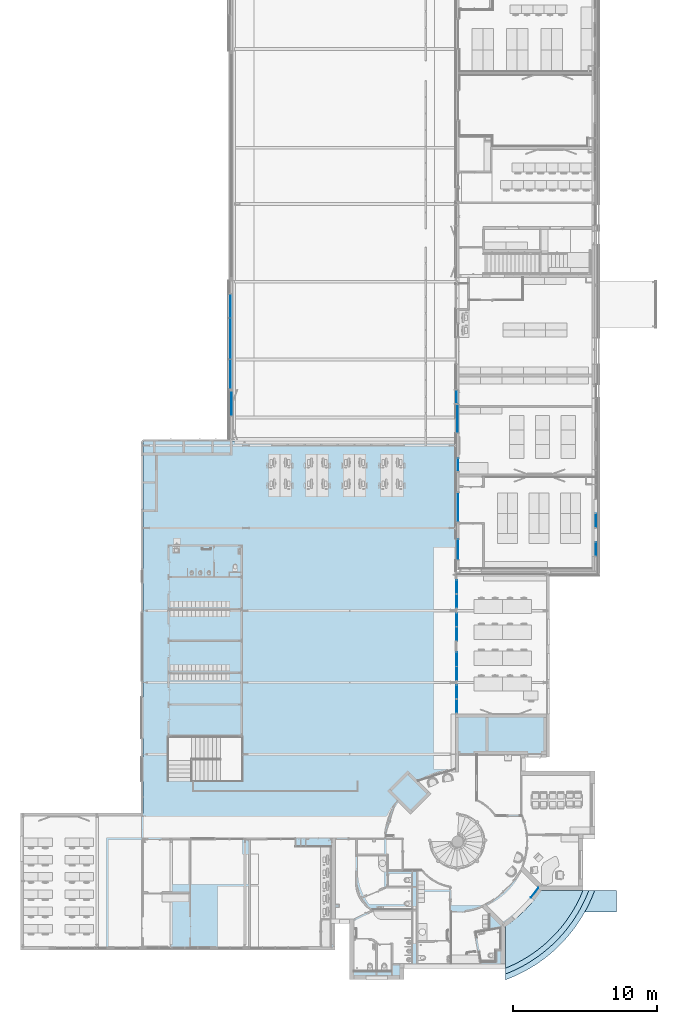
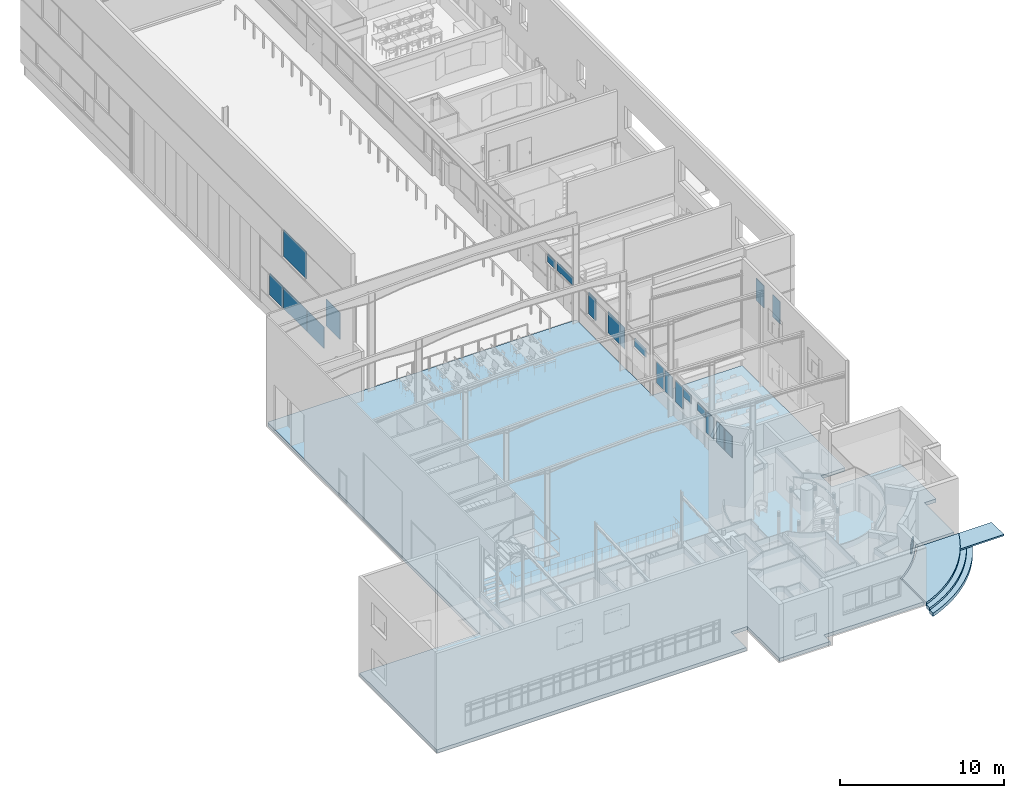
# One storey, part 28 of 137: 21 plates, 5 slabs, 16 elements without a shape of their own.
"""IFC2X3 building model written with IfcOpenShell, lengths in centimetres."""

from ifc_helpers import new_model, entity, si_unit, converted_unit, derived_unit, direction, frame, frame_2d, origin, origin_2d_with_axis, place, context, subcontext, project, spatial, polyline, circle_curve, parameter, trimmed, segment, composite_curve, rectangle, outline, extrude, source, transform, mapped, material, layer, layer_set, layer_usage, type_object, type_shapes, element, aggregate, save


model = new_model("IFC2X3")

# Units and contexts
model_context = context("Model", 3, precision=0.001, world=origin(), true_north=direction((6.12303176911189e-17, 1.0)))
body_context = subcontext(model_context, "Body", "Model", "MODEL_VIEW")
ifc_project = project(units=[si_unit("LENGTHUNIT", "METRE", prefix="CENTI"), si_unit("AREAUNIT", "SQUARE_METRE"), si_unit("VOLUMEUNIT", "CUBIC_METRE"), converted_unit("PLANEANGLEUNIT", "DEGREE", entity("IfcRatioMeasure", 0.0174532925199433), si_unit("PLANEANGLEUNIT", "RADIAN"), dimensions=[0, 0, 0, 0, 0, 0, 0]), si_unit("MASSUNIT", "GRAM", prefix="KILO"), si_unit("TIMEUNIT", "SECOND"), si_unit("FREQUENCYUNIT", "HERTZ"), si_unit("THERMODYNAMICTEMPERATUREUNIT", "DEGREE_CELSIUS"), derived_unit("THERMALTRANSMITTANCEUNIT", [(si_unit("MASSUNIT", "GRAM", prefix="KILO"), 1), (si_unit("THERMODYNAMICTEMPERATUREUNIT", "KELVIN"), -1), (si_unit("TIMEUNIT", "SECOND"), -3)]), derived_unit("VOLUMETRICFLOWRATEUNIT", [(si_unit("LENGTHUNIT", "METRE"), 3), (si_unit("TIMEUNIT", "SECOND"), -1)]), si_unit("ELECTRICCURRENTUNIT", "AMPERE"), si_unit("ELECTRICVOLTAGEUNIT", "VOLT"), si_unit("POWERUNIT", "WATT"), si_unit("FORCEUNIT", "NEWTON", prefix="KILO"), si_unit("ILLUMINANCEUNIT", "LUX"), si_unit("LUMINOUSFLUXUNIT", "LUMEN"), si_unit("LUMINOUSINTENSITYUNIT", "CANDELA"), derived_unit("USERDEFINED", [(si_unit("MASSUNIT", "GRAM", prefix="KILO"), -1), (si_unit("LENGTHUNIT", "METRE"), -2), (si_unit("TIMEUNIT", "SECOND"), 3), (si_unit("LUMINOUSFLUXUNIT", "LUMEN"), 1)]), derived_unit("LINEARVELOCITYUNIT", [(si_unit("LENGTHUNIT", "METRE"), 1), (si_unit("TIMEUNIT", "SECOND"), -1)]), si_unit("PRESSUREUNIT", "PASCAL"), derived_unit("USERDEFINED", [(si_unit("LENGTHUNIT", "METRE"), -2), (si_unit("MASSUNIT", "GRAM", prefix="KILO"), 1), (si_unit("TIMEUNIT", "SECOND"), -2)])], contexts=[model_context])

# Site, building, storey
site_placement = place(None, frame((8.62739174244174, -249.285249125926, 0.0)))
site = spatial("IfcSite", under=ifc_project, at=site_placement, Name="Default", CompositionType="ELEMENT")
building_placement = place(site_placement, origin())
building = spatial("IfcBuilding", under=site, at=building_placement, CompositionType="ELEMENT")
storey_placement = place(building_placement, origin())
storey = spatial("IfcBuildingStorey", under=building, at=storey_placement, Name="RDC", CompositionType="ELEMENT", Elevation=-8.82465566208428e-11)

# Curtain wall, plate
curtain_wall_type = type_object("IfcCurtainWallType", Name="Mur-rideau:Simple panneau", PredefinedType="NOTDEFINED")
curtain_wall_1_placement = place(storey_placement, origin())
curtain_wall_1 = element("IfcCurtainWall", 1, at=curtain_wall_1_placement, inside=storey, type_object=curtain_wall_type, Name="Mur-rideau:Simple panneau", ObjectType="Mur-rideau:Simple panneau")
ifc_material_1 = material(Name="Verre")
plate_type_1 = type_object("IfcPlateType", Name="Vitré", PredefinedType="CURTAIN_PANEL", material=ifc_material_1)
shared_shape_1 = source(origin(), body_context, "Body", "SweptSolid", [
    extrude(rectangle(XDim=4.0, YDim=280.0, at=frame_2d((4.44089209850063e-16, 0.0), x_axis=(1.0, 0.0))), frame((0.0, 2.49999999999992, 0.0), z_axis=(0.0, 0.0, 1.0), x_axis=(0.0, 1.0, 0.0)), (0.0, 0.0, 1.0), 200.0),
])
type_shapes(plate_type_1, [shared_shape_1])
plate_1_placement = place(curtain_wall_1_placement, frame((1458.9048277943, 4257.4802080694, 505.0), z_axis=(0.0, 0.0, 1.0), x_axis=(0.0, -1.0, 0.0)))
plate_1 = element("IfcPlate", 2, at=plate_1_placement, type_object=plate_type_1, material=ifc_material_1, Name="Panneau système:Vitré", ObjectType="Vitré", context=body_context, shape_type="MappedRepresentation", body=[
    mapped(shared_shape_1, transform((0.0, 0.0, 0.0), scale=1.0)),
])
aggregate(curtain_wall_1, [plate_1])

# Curtain wall, plates
curtain_wall_2_placement = place(storey_placement, origin())
curtain_wall_2 = element("IfcCurtainWall", 3, at=curtain_wall_2_placement, inside=storey, type_object=curtain_wall_type, Name="Mur-rideau:Simple panneau", ObjectType="Mur-rideau:Simple panneau")
plate_type_2 = type_object("IfcPlateType", Name="Vitré", PredefinedType="CURTAIN_PANEL", material=ifc_material_1)
shared_shape_2 = source(origin(), body_context, "Body", "SweptSolid", [
    extrude(rectangle(XDim=4.0, YDim=162.500029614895, at=origin_2d_with_axis()), frame((0.0, 2.49999999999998, 0.0), z_axis=(0.0, 0.0, 1.0), x_axis=(0.0, 1.0, 0.0)), (0.0, 0.0, 1.0), 159.999999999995),
])
type_shapes(plate_type_2, [shared_shape_2])
plate_2_placement = place(curtain_wall_2_placement, frame((1458.90482779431, 4484.73022287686, 115.0), z_axis=(0.0, 0.0, 1.0), x_axis=(0.0, -1.0, 0.0)))
plate_2 = element("IfcPlate", 4, at=plate_2_placement, type_object=plate_type_2, material=ifc_material_1, Name="Panneau système:Vitré", ObjectType="Vitré", context=body_context, shape_type="MappedRepresentation", body=[
    mapped(shared_shape_2, transform((0.0, 0.0, 0.0), scale=1.0)),
])
plate_type_3 = type_object("IfcPlateType", Name="Vitré", PredefinedType="CURTAIN_PANEL", material=ifc_material_1)
shared_shape_3 = source(origin(), body_context, "Body", "SweptSolid", [
    extrude(rectangle(XDim=4.0, YDim=284.999999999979, at=origin_2d_with_axis()), frame((0.0, 2.49999999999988, 0.0), z_axis=(0.0, 0.0, 1.0), x_axis=(0.0, 1.0, 0.0)), (0.0, 0.0, 1.0), 159.999999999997),
])
type_shapes(plate_type_3, [shared_shape_3])
plate_3_placement = place(curtain_wall_2_placement, frame((1458.90482779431, 4255.98020806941, 115.0), z_axis=(0.0, 0.0, 1.0), x_axis=(0.0, -1.0, 0.0)))
plate_3 = element("IfcPlate", 5, at=plate_3_placement, type_object=plate_type_3, material=ifc_material_1, Name="Panneau système:Vitré", ObjectType="Vitré", context=body_context, shape_type="MappedRepresentation", body=[
    mapped(shared_shape_3, transform((0.0, 0.0, 0.0), scale=1.0)),
])
plate_type_4 = type_object("IfcPlateType", Name="Vitré", PredefinedType="CURTAIN_PANEL", material=ifc_material_1)
shared_shape_4 = source(origin(), body_context, "Body", "SweptSolid", [
    extrude(rectangle(XDim=4.0, YDim=202.500000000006, at=frame_2d((4.44089209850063e-16, 0.0), x_axis=(1.0, 0.0))), frame((0.0, 2.49999999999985, 0.0), z_axis=(0.0, 0.0, 1.0), x_axis=(0.0, 1.0, 0.0)), (0.0, 0.0, 1.0), 159.999999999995),
])
type_shapes(plate_type_4, [shared_shape_4])
plate_4_placement = place(curtain_wall_2_placement, frame((1458.90482779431, 4007.23020806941, 115.0), z_axis=(0.0, 0.0, 1.0), x_axis=(0.0, -1.0, 0.0)))
plate_4 = element("IfcPlate", 6, at=plate_4_placement, type_object=plate_type_4, material=ifc_material_1, Name="Panneau système:Vitré", ObjectType="Vitré", context=body_context, shape_type="MappedRepresentation", body=[
    mapped(shared_shape_4, transform((0.0, 0.0, 0.0), scale=1.0)),
])
aggregate(curtain_wall_2, [plate_2, plate_3, plate_4])

curtain_wall_3_placement = place(storey_placement, origin())
curtain_wall_3 = element("IfcCurtainWall", 7, at=curtain_wall_3_placement, inside=storey, type_object=curtain_wall_type, Name="Mur-rideau:Simple panneau", ObjectType="Mur-rideau:Simple panneau")
plate_type_5 = type_object("IfcPlateType", Name="Vitré", PredefinedType="CURTAIN_PANEL", material=ifc_material_1)
shared_shape_5 = source(origin(), body_context, "Body", "SweptSolid", [
    extrude(rectangle(XDim=4.0, YDim=95.0000000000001, at=frame_2d((-4.44089209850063e-16, 0.0), x_axis=(1.0, 0.0))), frame((0.0, 2.49999999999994, 0.0), z_axis=(0.0, 0.0, 1.0), x_axis=(0.0, 1.0, 0.0)), (0.0, 0.0, 1.0), 165.000000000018),
])
type_shapes(plate_type_5, [shared_shape_5])
plate_5_placement = place(curtain_wall_3_placement, frame((4003.90482781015, 2989.68519336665, 110.0), z_axis=(0.0, 0.0, 1.0), x_axis=(0.0, -1.0, 0.0)))
plate_5 = element("IfcPlate", 8, at=plate_5_placement, type_object=plate_type_5, material=ifc_material_1, Name="Panneau système:Vitré", ObjectType="Vitré", context=body_context, shape_type="MappedRepresentation", body=[
    mapped(shared_shape_5, transform((0.0, 0.0, 0.0), scale=1.0)),
])
plate_type_6 = type_object("IfcPlateType", Name="Vitré", PredefinedType="CURTAIN_PANEL", material=ifc_material_1)
shared_shape_6 = source(origin(), body_context, "Body", "SweptSolid", [
    extrude(rectangle(XDim=4.0, YDim=93.0000000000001, at=frame_2d((4.44089209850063e-16, 0.0), x_axis=(1.0, 0.0))), frame((0.0, 2.50000000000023, 0.0), z_axis=(0.0, 0.0, 1.0), x_axis=(0.0, 1.0, 0.0)), (0.0, 0.0, 1.0), 165.000000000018),
])
type_shapes(plate_type_6, [shared_shape_6])
plate_6_placement = place(curtain_wall_3_placement, frame((4003.90482781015, 2790.68519336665, 110.0), z_axis=(0.0, 0.0, 1.0), x_axis=(0.0, -1.0, 0.0)))
plate_6 = element("IfcPlate", 9, at=plate_6_placement, type_object=plate_type_6, material=ifc_material_1, Name="Panneau système:Vitré", ObjectType="Vitré", context=body_context, shape_type="MappedRepresentation", body=[
    mapped(shared_shape_6, transform((0.0, 0.0, 0.0), scale=1.0)),
])
aggregate(curtain_wall_3, [plate_5, plate_6])

# Curtain wall, plate
curtain_wall_4_placement = place(storey_placement, origin())
curtain_wall_4 = element("IfcCurtainWall", 10, at=curtain_wall_4_placement, inside=storey, type_object=curtain_wall_type, Name="Mur-rideau:Simple panneau", ObjectType="Mur-rideau:Simple panneau")
plate_type_7 = type_object("IfcPlateType", Name="Vitré", PredefinedType="CURTAIN_PANEL", material=ifc_material_1)
shared_shape_7 = source(origin(), body_context, "Body", "SweptSolid", [
    extrude(rectangle(XDim=4.0, YDim=205.0, at=origin_2d_with_axis()), frame((0.0, -2.50000000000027, 0.0), z_axis=(0.0, 0.0, 1.0), x_axis=(0.0, 1.0, 0.0)), (0.0, 0.0, 1.0), 160.0),
])
type_shapes(plate_type_7, [shared_shape_7])
plate_7_placement = place(curtain_wall_4_placement, frame((3043.90482779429, 3082.4802074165, 115.0), z_axis=(0.0, 0.0, 1.0), x_axis=(0.0, 1.0, 0.0)))
plate_7 = element("IfcPlate", 11, at=plate_7_placement, type_object=plate_type_7, material=ifc_material_1, Name="Panneau système:Vitré", ObjectType="Vitré", context=body_context, shape_type="MappedRepresentation", body=[
    mapped(shared_shape_7, transform((0.0, 0.0, 0.0), scale=1.0)),
])
aggregate(curtain_wall_4, [plate_7])

curtain_wall_5_placement = place(storey_placement, origin())
curtain_wall_5 = element("IfcCurtainWall", 12, at=curtain_wall_5_placement, inside=storey, type_object=curtain_wall_type, Name="Mur-rideau:Simple panneau", ObjectType="Mur-rideau:Simple panneau")
plate_type_8 = type_object("IfcPlateType", Name="Vitré", PredefinedType="CURTAIN_PANEL", material=ifc_material_1)
shared_shape_8 = source(origin(), body_context, "Body", "SweptSolid", [
    extrude(rectangle(XDim=4.0, YDim=89.9999999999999, at=origin_2d_with_axis()), frame((0.0, -2.50000000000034, 0.0), z_axis=(0.0, 0.0, 1.0), x_axis=(0.0, 1.0, 0.0)), (0.0, 0.0, 1.0), 160.0),
])
type_shapes(plate_type_8, [shared_shape_8])
plate_8_placement = place(curtain_wall_5_placement, frame((3043.90482779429, 3377.18519336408, 115.0), z_axis=(0.0, 0.0, 1.0), x_axis=(0.0, 1.0, 0.0)))
plate_8 = element("IfcPlate", 13, at=plate_8_placement, type_object=plate_type_8, material=ifc_material_1, Name="Panneau système:Vitré", ObjectType="Vitré", context=body_context, shape_type="MappedRepresentation", body=[
    mapped(shared_shape_8, transform((0.0, 0.0, 0.0), scale=1.0)),
])
aggregate(curtain_wall_5, [plate_8])

curtain_wall_6_placement = place(storey_placement, origin())
curtain_wall_6 = element("IfcCurtainWall", 14, at=curtain_wall_6_placement, inside=storey, type_object=curtain_wall_type, Name="Mur-rideau:Simple panneau", ObjectType="Mur-rideau:Simple panneau")
plate_type_9 = type_object("IfcPlateType", Name="Vitré", PredefinedType="CURTAIN_PANEL", material=ifc_material_1)
shared_shape_9 = source(origin(), body_context, "Body", "SweptSolid", [
    extrude(rectangle(XDim=4.0, YDim=140.999999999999, at=frame_2d((4.44089209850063e-16, 0.0), x_axis=(1.0, 0.0))), frame((0.0, 2.49999999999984, 0.0), z_axis=(0.0, 0.0, 1.0), x_axis=(0.0, 1.0, 0.0)), (0.0, 0.0, 1.0), 61.9999999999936),
])
type_shapes(plate_type_9, [shared_shape_9])
plate_9_placement = place(curtain_wall_6_placement, frame((3043.90482779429, 2787.34806445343, 213.0), z_axis=(0.0, 0.0, 1.0), x_axis=(0.0, -1.0, 0.0)))
plate_9 = element("IfcPlate", 15, at=plate_9_placement, type_object=plate_type_9, material=ifc_material_1, Name="Panneau système:Vitré", ObjectType="Vitré", context=body_context, shape_type="MappedRepresentation", body=[
    mapped(shared_shape_9, transform((0.0, 0.0, 0.0), scale=1.0)),
])
aggregate(curtain_wall_6, [plate_9])

curtain_wall_7_placement = place(storey_placement, origin())
curtain_wall_7 = element("IfcCurtainWall", 16, at=curtain_wall_7_placement, inside=storey, type_object=curtain_wall_type, Name="Mur-rideau:Simple panneau", ObjectType="Mur-rideau:Simple panneau")
plate_type_10 = type_object("IfcPlateType", Name="Vitré", PredefinedType="CURTAIN_PANEL", material=ifc_material_1)
shared_shape_10 = source(origin(), body_context, "Body", "SweptSolid", [
    extrude(rectangle(XDim=4.0, YDim=91.9999999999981, at=frame_2d((-4.44089209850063e-16, 0.0), x_axis=(1.0, 0.0))), frame((0.0, 2.5000000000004, 0.0), z_axis=(0.0, 0.0, 1.0), x_axis=(0.0, 1.0, 0.0)), (0.0, 0.0, 1.0), 61.9999999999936),
])
type_shapes(plate_type_10, [shared_shape_10])
plate_10_placement = place(curtain_wall_7_placement, frame((3031.90482779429, 3852.1851933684, 213.0), z_axis=(0.0, 0.0, 1.0), x_axis=(0.0, -1.0, 0.0)))
plate_10 = element("IfcPlate", 17, at=plate_10_placement, type_object=plate_type_10, material=ifc_material_1, Name="Panneau système:Vitré", ObjectType="Vitré", context=body_context, shape_type="MappedRepresentation", body=[
    mapped(shared_shape_10, transform((0.0, 0.0, 0.0), scale=1.0)),
])
aggregate(curtain_wall_7, [plate_10])

curtain_wall_8_placement = place(storey_placement, origin())
curtain_wall_8 = element("IfcCurtainWall", 18, at=curtain_wall_8_placement, inside=storey, type_object=curtain_wall_type, Name="Mur-rideau:Simple panneau", ObjectType="Mur-rideau:Simple panneau")
plate_type_11 = type_object("IfcPlateType", Name="Vitré", PredefinedType="CURTAIN_PANEL", material=ifc_material_1)
shared_shape_11 = source(origin(), body_context, "Body", "SweptSolid", [
    extrude(rectangle(XDim=4.0, YDim=84.0, at=frame_2d((-4.44089209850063e-16, 0.0), x_axis=(1.0, 0.0))), frame((0.0, 2.49999999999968, 0.0), z_axis=(0.0, 0.0, 1.0), x_axis=(0.0, 1.0, 0.0)), (0.0, 0.0, 1.0), 70.0),
])
type_shapes(plate_type_11, [shared_shape_11])
plate_11_placement = place(curtain_wall_8_placement, frame((3577.48629719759, 398.246278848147, 0.0), z_axis=(0.0, 0.0, 1.0), x_axis=(-0.609666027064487, -0.792658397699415, 0.0)))
plate_11 = element("IfcPlate", 19, at=plate_11_placement, type_object=plate_type_11, material=ifc_material_1, Name="Panneau système:Vitré", ObjectType="Vitré", context=body_context, shape_type="MappedRepresentation", body=[
    mapped(shared_shape_11, transform((0.0, 0.0, 0.0), scale=1.0)),
])
aggregate(curtain_wall_8, [plate_11])

curtain_wall_9_placement = place(storey_placement, origin())
curtain_wall_9 = element("IfcCurtainWall", 20, at=curtain_wall_9_placement, inside=storey, type_object=curtain_wall_type, Name="Mur-rideau:Simple panneau", ObjectType="Mur-rideau:Simple panneau")
plate_type_12 = type_object("IfcPlateType", Name="Vitré", PredefinedType="CURTAIN_PANEL", material=ifc_material_1)
shared_shape_12 = source(origin(), body_context, "Body", "SweptSolid", [
    extrude(rectangle(XDim=4.0, YDim=169.999999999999, at=origin_2d_with_axis()), frame((0.0, 2.5, 0.0), z_axis=(0.0, 0.0, 1.0), x_axis=(0.0, 1.0, 0.0)), (0.0, 0.0, 1.0), 199.999999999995),
])
type_shapes(plate_type_12, [shared_shape_12])
plate_12_placement = place(curtain_wall_9_placement, frame((1466.9048277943, 3805.98020806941, 290.0), z_axis=(0.0, 0.0, 1.0), x_axis=(0.0, -1.0, 0.0)))
plate_12 = element("IfcPlate", 21, at=plate_12_placement, type_object=plate_type_12, material=ifc_material_1, Name="Panneau système:Vitré", ObjectType="Vitré", context=body_context, shape_type="MappedRepresentation", body=[
    mapped(shared_shape_12, transform((0.0, 0.0, 0.0), scale=1.0)),
])
aggregate(curtain_wall_9, [plate_12])

# Curtain wall, plates
curtain_wall_10_placement = place(storey_placement, origin())
curtain_wall_10 = element("IfcCurtainWall", 22, at=curtain_wall_10_placement, inside=storey, type_object=curtain_wall_type, Name="Mur-rideau:Simple panneau", ObjectType="Mur-rideau:Simple panneau")
plate_type_13 = type_object("IfcPlateType", Name="Vitré", PredefinedType="CURTAIN_PANEL", material=ifc_material_1)
shared_shape_13 = source(origin(), body_context, "Body", "SweptSolid", [
    extrude(rectangle(XDim=4.0, YDim=95.9999999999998, at=origin_2d_with_axis()), frame((0.0, -2.50000000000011, 0.0), z_axis=(0.0, 0.0, 1.0), x_axis=(0.0, 1.0, 0.0)), (0.0, 0.0, 1.0), 62.0),
])
type_shapes(plate_type_13, [shared_shape_13])
plate_13_placement = place(curtain_wall_10_placement, frame((3034.90482780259, 2199.98020807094, 213.0), z_axis=(0.0, 0.0, 1.0), x_axis=(0.0, 1.0, 0.0)))
plate_13 = element("IfcPlate", 23, at=plate_13_placement, type_object=plate_type_13, material=ifc_material_1, Name="Panneau système:Vitré", ObjectType="Vitré", context=body_context, shape_type="MappedRepresentation", body=[
    mapped(shared_shape_13, transform((0.0, 0.0, 0.0), scale=1.0)),
])
plate_type_14 = type_object("IfcPlateType", Name="Vitré", PredefinedType="CURTAIN_PANEL", material=ifc_material_1)
shared_shape_14 = source(origin(), body_context, "Body", "SweptSolid", [
    extrude(rectangle(XDim=4.0, YDim=91.999999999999, at=origin_2d_with_axis()), frame((0.0, -2.49999999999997, 0.0), z_axis=(0.0, 0.0, 1.0), x_axis=(0.0, 1.0, 0.0)), (0.0, 0.0, 1.0), 160.0),
])
type_shapes(plate_type_14, [shared_shape_14])
plate_14_placement = place(curtain_wall_10_placement, frame((3034.90482780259, 2298.98020807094, 115.0), z_axis=(0.0, 0.0, 1.0), x_axis=(0.0, 1.0, 0.0)))
plate_14 = element("IfcPlate", 24, at=plate_14_placement, type_object=plate_type_14, material=ifc_material_1, Name="Panneau système:Vitré", ObjectType="Vitré", context=body_context, shape_type="MappedRepresentation", body=[
    mapped(shared_shape_14, transform((0.0, 0.0, 0.0), scale=1.0)),
])
aggregate(curtain_wall_10, [plate_13, plate_14])

# Curtain wall, plate
curtain_wall_11_placement = place(storey_placement, origin())
curtain_wall_11 = element("IfcCurtainWall", 25, at=curtain_wall_11_placement, inside=storey, type_object=curtain_wall_type, Name="Mur-rideau:Simple panneau", ObjectType="Mur-rideau:Simple panneau")
plate_type_15 = type_object("IfcPlateType", Name="Vitré", PredefinedType="CURTAIN_PANEL", material=ifc_material_1)
shared_shape_15 = source(origin(), body_context, "Body", "SweptSolid", [
    extrude(rectangle(XDim=4.0, YDim=90.0000000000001, at=frame_2d((-4.44089209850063e-16, 0.0), x_axis=(1.0, 0.0))), frame((0.0, 2.5, 0.0), z_axis=(0.0, 0.0, 1.0), x_axis=(0.0, 1.0, 0.0)), (0.0, 0.0, 1.0), 160.0),
])
type_shapes(plate_type_15, [shared_shape_15])
plate_15_placement = place(curtain_wall_11_placement, frame((3034.90482780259, 1795.98020806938, 115.0), z_axis=(0.0, 0.0, 1.0), x_axis=(0.0, -1.0, 0.0)))
plate_15 = element("IfcPlate", 26, at=plate_15_placement, type_object=plate_type_15, material=ifc_material_1, Name="Panneau système:Vitré", ObjectType="Vitré", context=body_context, shape_type="MappedRepresentation", body=[
    mapped(shared_shape_15, transform((0.0, 0.0, 0.0), scale=1.0)),
])
aggregate(curtain_wall_11, [plate_15])

curtain_wall_12_placement = place(storey_placement, origin())
curtain_wall_12 = element("IfcCurtainWall", 27, at=curtain_wall_12_placement, inside=storey, type_object=curtain_wall_type, Name="Mur-rideau:Simple panneau", ObjectType="Mur-rideau:Simple panneau")
plate_16_placement = place(curtain_wall_12_placement, frame((3034.90482780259, 1695.98020806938, 115.0), z_axis=(0.0, 0.0, 1.0), x_axis=(0.0, -1.0, 0.0)))
plate_16 = element("IfcPlate", 28, at=plate_16_placement, type_object=plate_type_15, material=ifc_material_1, Name="Panneau système:Vitré", ObjectType="Vitré", context=body_context, shape_type="MappedRepresentation", body=[
    mapped(shared_shape_15, transform((0.0, 0.0, 0.0), scale=1.0)),
])
aggregate(curtain_wall_12, [plate_16])

curtain_wall_13_placement = place(storey_placement, origin())
curtain_wall_13 = element("IfcCurtainWall", 29, at=curtain_wall_13_placement, inside=storey, type_object=curtain_wall_type, Name="Mur-rideau:Simple panneau", ObjectType="Mur-rideau:Simple panneau")
plate_17_placement = place(curtain_wall_13_placement, frame((3034.90482780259, 2527.98020806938, 115.0), z_axis=(0.0, 0.0, 1.0), x_axis=(0.0, -1.0, 0.0)))
plate_17 = element("IfcPlate", 30, at=plate_17_placement, type_object=plate_type_15, material=ifc_material_1, Name="Panneau système:Vitré", ObjectType="Vitré", context=body_context, shape_type="MappedRepresentation", body=[
    mapped(shared_shape_15, transform((0.0, 0.0, 0.0), scale=1.0)),
])
aggregate(curtain_wall_13, [plate_17])

curtain_wall_14_placement = place(storey_placement, origin())
curtain_wall_14 = element("IfcCurtainWall", 31, at=curtain_wall_14_placement, inside=storey, type_object=curtain_wall_type, Name="Mur-rideau:Simple panneau", ObjectType="Mur-rideau:Simple panneau")
plate_18_placement = place(curtain_wall_14_placement, frame((3034.90482780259, 2427.98020806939, 115.0), z_axis=(0.0, 0.0, 1.0), x_axis=(0.0, -1.0, 0.0)))
plate_18 = element("IfcPlate", 32, at=plate_18_placement, type_object=plate_type_15, material=ifc_material_1, Name="Panneau système:Vitré", ObjectType="Vitré", context=body_context, shape_type="MappedRepresentation", body=[
    mapped(shared_shape_15, transform((0.0, 0.0, 0.0), scale=1.0)),
])
aggregate(curtain_wall_14, [plate_18])

# Curtain wall, plates
curtain_wall_15_placement = place(storey_placement, origin())
curtain_wall_15 = element("IfcCurtainWall", 33, at=curtain_wall_15_placement, inside=storey, type_object=curtain_wall_type, Name="Mur-rideau:Simple panneau", ObjectType="Mur-rideau:Simple panneau")
plate_type_16 = type_object("IfcPlateType", Name="Vitré", PredefinedType="CURTAIN_PANEL", material=ifc_material_1)
shared_shape_16 = source(origin(), body_context, "Body", "SweptSolid", [
    extrude(rectangle(XDim=4.0, YDim=96.0, at=frame_2d((-4.44089209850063e-16, 0.0), x_axis=(1.0, 0.0))), frame((0.0, 2.5, 0.0), z_axis=(0.0, 0.0, 1.0), x_axis=(0.0, 1.0, 0.0)), (0.0, 0.0, 1.0), 62.0),
])
type_shapes(plate_type_16, [shared_shape_16])
plate_19_placement = place(curtain_wall_15_placement, frame((3034.90482780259, 2023.98020807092, 213.0), z_axis=(0.0, 0.0, 1.0), x_axis=(0.0, -1.0, 0.0)))
plate_19 = element("IfcPlate", 34, at=plate_19_placement, type_object=plate_type_16, material=ifc_material_1, Name="Panneau système:Vitré", ObjectType="Vitré", context=body_context, shape_type="MappedRepresentation", body=[
    mapped(shared_shape_16, transform((0.0, 0.0, 0.0), scale=1.0)),
])
plate_type_17 = type_object("IfcPlateType", Name="Vitré", PredefinedType="CURTAIN_PANEL", material=ifc_material_1)
shared_shape_17 = source(origin(), body_context, "Body", "SweptSolid", [
    extrude(rectangle(XDim=4.0, YDim=91.999999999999, at=frame_2d((-4.44089209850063e-16, 0.0), x_axis=(1.0, 0.0))), frame((0.0, 2.5, 0.0), z_axis=(0.0, 0.0, 1.0), x_axis=(0.0, 1.0, 0.0)), (0.0, 0.0, 1.0), 160.0),
])
type_shapes(plate_type_17, [shared_shape_17])
plate_20_placement = place(curtain_wall_15_placement, frame((3034.90482780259, 1924.98020807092, 115.0), z_axis=(0.0, 0.0, 1.0), x_axis=(0.0, -1.0, 0.0)))
plate_20 = element("IfcPlate", 35, at=plate_20_placement, type_object=plate_type_17, material=ifc_material_1, Name="Panneau système:Vitré", ObjectType="Vitré", context=body_context, shape_type="MappedRepresentation", body=[
    mapped(shared_shape_17, transform((0.0, 0.0, 0.0), scale=1.0)),
])
aggregate(curtain_wall_15, [plate_19, plate_20])

# Curtain wall, plate
curtain_wall_16_placement = place(storey_placement, origin())
curtain_wall_16 = element("IfcCurtainWall", 36, at=curtain_wall_16_placement, inside=storey, type_object=curtain_wall_type, Name="Mur-rideau:Simple panneau", ObjectType="Mur-rideau:Simple panneau")
plate_type_18 = type_object("IfcPlateType", Name="Vitré", PredefinedType="CURTAIN_PANEL", material=ifc_material_1)
shared_shape_18 = source(origin(), body_context, "Body", "SweptSolid", [
    extrude(rectangle(XDim=4.0, YDim=194.500000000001, at=frame_2d((-4.44089209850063e-16, 0.0), x_axis=(1.0, 0.0))), frame((0.0, 2.5, 0.0), z_axis=(0.0, 0.0, 1.0), x_axis=(0.0, 1.0, 0.0)), (0.0, 0.0, 1.0), 61.5000000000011),
])
type_shapes(plate_type_18, [shared_shape_18])
plate_21_placement = place(curtain_wall_16_placement, frame((3043.90482779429, 3698.9351933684, 213.499999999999), z_axis=(0.0, 0.0, 1.0), x_axis=(0.0, 1.0, 0.0)))
plate_21 = element("IfcPlate", 37, at=plate_21_placement, type_object=plate_type_18, material=ifc_material_1, Name="Panneau système:Vitré", ObjectType="Vitré", context=body_context, shape_type="MappedRepresentation", body=[
    mapped(shared_shape_18, transform((0.0, 0.0, 0.0), scale=1.0)),
])
aggregate(curtain_wall_16, [plate_21])

# Slabs
ifc_material_2 = material(Name="Maçonnerie - Béton")
ifc_layer_1 = layer(ifc_material_2, 25.0)
ifc_layer_set_1 = layer_set([ifc_layer_1], Name="Sol:Dalle en béton - 250 mm")
ifc_layer_usage_1 = layer_usage(ifc_layer_set_1, "AXIS3", "POSITIVE", 0.0)
slab_1_placement = place(storey_placement, origin())
element("IfcSlab", 38, at=slab_1_placement, inside=storey, material=ifc_layer_usage_1, Name="Sol:Dalle en béton - 250 mm", ObjectType="Sol:Dalle en béton - 250 mm", PredefinedType="FLOOR", context=body_context, shape_type="SweptSolid", body=[
    extrude(outline(composite_curve([segment(polyline([(-1149.51977840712, -2650.27489330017), (-204.519778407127, -2650.27489330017)]), True, "CONTINUOUS"), segment(polyline([(-204.519778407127, -2650.27489330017), (-204.519778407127, -1803.3718494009)]), True, "CONTINUOUS"), segment(polyline([(-204.519778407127, -1803.3718494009), (2375.19480527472, -1803.3718494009)]), True, "CONTINUOUS"), segment(trimmed(circle_curve(frame_2d((2375.19480527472, -1789.09543152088), x_axis=(0.0, -1.0)), 14.2764178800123), [parameter(0.0)], [parameter(90.0000000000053)], True, "PARAMETER"), True, "CONTINUOUS"), segment(polyline([(2389.47122315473, -1789.09543152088), (2389.47122315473, 361.353516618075)]), True, "CONTINUOUS"), segment(trimmed(circle_curve(frame_2d((2375.19480527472, 361.353516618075), x_axis=(1.0, 0.0)), 14.2764178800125), [parameter(0.0)], [parameter(90.000000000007)], True, "PARAMETER"), True, "CONTINUOUS"), segment(polyline([(2375.19480527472, 375.629934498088), (1463.46042966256, 375.629934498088)]), True, "CONTINUOUS"), segment(polyline([(1463.46042966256, 375.629934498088), (1463.46042966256, 1008.62993450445)]), True, "CONTINUOUS"), segment(polyline([(1463.46042966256, 1008.62993450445), (205.460429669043, 1008.62993450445)]), True, "CONTINUOUS"), segment(polyline([(205.460429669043, 1008.62993450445), (205.460429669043, 838.629934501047)]), True, "CONTINUOUS"), segment(polyline([(205.460429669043, 838.629934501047), (71.4604296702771, 838.629934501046)]), True, "CONTINUOUS"), segment(polyline([(71.4604296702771, 838.629934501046), (71.4604296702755, 1323.62993450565)]), True, "CONTINUOUS"), segment(polyline([(71.4604296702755, 1323.62993450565), (-358.539570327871, 1323.62993450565)]), True, "CONTINUOUS"), segment(polyline([(-358.539570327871, 1323.62993450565), (-358.539570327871, 1240.62993450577)]), True, "CONTINUOUS"), segment(polyline([(-358.539570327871, 1240.62993450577), (-720.539570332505, 1240.62993450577)]), True, "CONTINUOUS"), segment(polyline([(-720.539570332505, 1240.62993450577), (-720.539570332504, 969.696579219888)]), True, "CONTINUOUS"), segment(trimmed(circle_curve(frame_2d((-262.735942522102, 238.904518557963), x_axis=(-0.530881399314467, 0.847446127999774)), 862.346332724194), [parameter(0.0)], [parameter(24.7717864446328)], True, "PARAMETER"), True, "CONTINUOUS"), segment(polyline([(-984.619817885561, 710.629934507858), (-1270.53957033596, 710.629934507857)]), True, "CONTINUOUS"), segment(polyline([(-1270.53957033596, 710.629934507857), (-1270.53957033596, 6.62993450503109)]), True, "CONTINUOUS"), segment(polyline([(-1270.53957033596, 6.62993450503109), (-1350.5395703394, 6.62993450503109)]), True, "CONTINUOUS"), segment(polyline([(-1350.5395703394, 6.62993450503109), (-1350.5395703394, -352.370065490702)]), True, "CONTINUOUS"), segment(polyline([(-1350.5395703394, -352.370065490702), (-958.539570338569, -352.370065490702)]), True, "CONTINUOUS"), segment(polyline([(-958.539570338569, -352.370065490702), (-958.539570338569, -469.370065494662)]), True, "CONTINUOUS"), segment(polyline([(-958.539570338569, -469.370065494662), (-1149.51977840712, -469.370065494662)]), True, "CONTINUOUS"), segment(polyline([(-1149.51977840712, -469.370065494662), (-1149.51977840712, -2650.27489330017)]), True, "CONTINUOUS")], self_intersect=False)), frame((2654.2748933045, 1153.51977840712, 0.0), z_axis=(0.0, 0.0, -1.0), x_axis=(0.0, 1.0, 0.0)), (0.0, 0.0, 1.0), 25.0),
])
ifc_layer_usage_2 = layer_usage(ifc_layer_set_1, "AXIS3", "POSITIVE", 0.0)
slab_2_placement = place(storey_placement, origin())
element("IfcSlab", 39, at=slab_2_placement, inside=storey, material=ifc_layer_usage_2, Name="Sol:Dalle en béton - 250 mm", ObjectType="Sol:Dalle en béton - 250 mm", PredefinedType="FLOOR", context=body_context, shape_type="SweptSolid", body=[
    extrude(outline(composite_curve([segment(trimmed(circle_curve(frame_2d((557.292311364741, 557.111090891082), x_axis=(-0.371617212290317, -0.928386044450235)), 969.881877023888), [parameter(313.630779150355)], [parameter(0.0)], True, "PARAMETER"), True, "CONTINUOUS"), segment(polyline([(196.867511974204, -343.313708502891), (196.867511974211, -50.058874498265)]), True, "CONTINUOUS"), segment(trimmed(circle_curve(frame_2d((683.791828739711, 685.767029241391), x_axis=(-0.832319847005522, -0.554295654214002)), 882.346332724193), [parameter(0.0)], [parameter(22.8436453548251)], True, "PARAMETER"), False, "CONTINUOUS"), segment(polyline([(-50.6025359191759, 196.686291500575), (-343.132488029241, 196.686291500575)]), True, "CONTINUOUS")], self_intersect=False)), frame((3572.59111931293, 215.112696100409, -2.0), z_axis=(0.0, 0.0, 1.0), x_axis=(0.0, 1.0, 0.0)), (0.0, 0.0, -1.0), 25.0),
])
ifc_layer_usage_3 = layer_usage(ifc_layer_set_1, "AXIS3", "POSITIVE", 0.0)
slab_3_placement = place(storey_placement, origin())
element("IfcSlab", 40, at=slab_3_placement, inside=storey, material=ifc_layer_usage_3, Name="Sol:Dalle en béton - 250 mm", ObjectType="Sol:Dalle en béton - 250 mm", PredefinedType="FLOOR", context=body_context, shape_type="SweptSolid", body=[
    extrude(outline(composite_curve([segment(trimmed(circle_curve(frame_2d((640.626886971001, 640.62688697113), x_axis=(-0.357606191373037, -0.933872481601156)), 1007.88187704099), [parameter(311.906513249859)], [parameter(0.0)], True, "PARAMETER"), True, "CONTINUOUS"), segment(polyline([(280.202087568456, -300.606262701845), (280.202087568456, -259.79791243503)]), True, "CONTINUOUS"), segment(trimmed(circle_curve(frame_2d((640.626886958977, 640.626886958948), x_axis=(-0.928386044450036, -0.371617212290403)), 969.881877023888), [parameter(0.0)], [parameter(46.369220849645)], True, "PARAMETER"), False, "CONTINUOUS"), segment(polyline([(-259.797912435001, 280.202087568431), (-300.606262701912, 280.202087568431)]), True, "CONTINUOUS")], self_intersect=False)), frame((3656.10691538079, 131.778120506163, -18.0), z_axis=(0.0, 0.0, 1.0), x_axis=(0.0, 1.0, 0.0)), (0.0, 0.0, -1.0), 25.0),
])
ifc_layer_usage_4 = layer_usage(ifc_layer_set_1, "AXIS3", "POSITIVE", 0.0)
slab_4_placement = place(storey_placement, origin())
element("IfcSlab", 41, at=slab_4_placement, inside=storey, material=ifc_layer_usage_4, Name="Sol:Dalle en béton - 250 mm", ObjectType="Sol:Dalle en béton - 250 mm", PredefinedType="FLOOR", context=body_context, shape_type="SweptSolid", body=[
    extrude(outline(composite_curve([segment(trimmed(circle_curve(frame_2d((660.974713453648, 660.97471345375), x_axis=(-0.34461329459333, -0.938744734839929)), 1045.88187704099), [parameter(310.316383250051)], [parameter(0.0)], True, "PARAMETER"), True, "CONTINUOUS"), segment(polyline([(300.549914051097, -320.841391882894), (300.549914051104, -280.258436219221)]), True, "CONTINUOUS"), segment(trimmed(circle_curve(frame_2d((660.974713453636, 660.974713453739), x_axis=(-0.933872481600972, -0.357606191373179)), 1007.88187704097), [parameter(0.0)], [parameter(48.0934867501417)], True, "PARAMETER"), False, "CONTINUOUS"), segment(polyline([(-280.258436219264, 300.549914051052), (-320.841391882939, 300.549914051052)]), True, "CONTINUOUS")], self_intersect=False)), frame((3676.45474186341, 111.430294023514, -33.4999999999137), z_axis=(0.0, 0.0, 1.0), x_axis=(0.0, 1.0, 0.0)), (0.0, 0.0, -1.0), 25.0),
])
ifc_layer_2 = layer(ifc_material_2, 11.0)
ifc_layer_set_2 = layer_set([ifc_layer_2], Name="Sol:Dalle en béton - 100 mm")
ifc_layer_usage_5 = layer_usage(ifc_layer_set_2, "AXIS3", "POSITIVE", 0.0)
slab_5_placement = place(storey_placement, origin())
element("IfcSlab", 42, at=slab_5_placement, inside=storey, material=ifc_layer_usage_5, Name="Sol:Dalle en béton - 100 mm", ObjectType="Sol:Dalle en béton - 100 mm", PredefinedType="FLOOR", context=body_context, shape_type="SweptSolid", body=[
    extrude(outline(composite_curve([segment(polyline([(-135.430097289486, -75.0), (173.290287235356, -75.0)]), True, "CONTINUOUS"), segment(trimmed(circle_curve(frame_2d((997.994706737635, 435.424799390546), x_axis=(-0.850314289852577, -0.526275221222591)), 969.881877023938), [parameter(350.061259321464)], [parameter(0.0)], True, "PARAMETER"), False, "CONTINUOUS"), segment(polyline([(97.5699073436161, 75.0), (-135.430097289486, 75.0)]), True, "CONTINUOUS"), segment(polyline([(-135.430097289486, 75.0), (-135.430097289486, -75.0)]), True, "CONTINUOUS")], self_intersect=False)), frame((4013.47473515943, 336.980208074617, -2.0), z_axis=(0.0, 0.0, -1.0), x_axis=(-1.0, 0.0, 0.0)), (0.0, 0.0, 1.0), 11.0),
])

save(model, "model.ifc")
